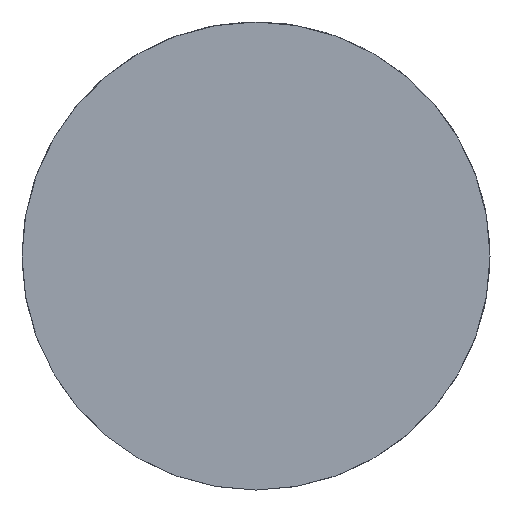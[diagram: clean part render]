
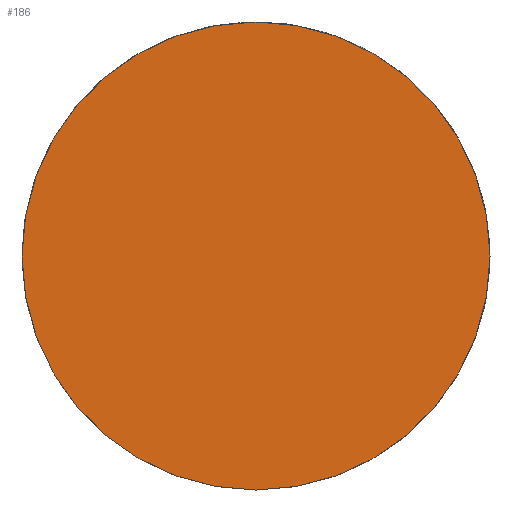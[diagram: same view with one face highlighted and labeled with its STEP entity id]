
A CAD part, front view. The second image highlights one B-rep face of the part: STEP entity #186.
In plain terms, the highlighted planar face has unit normal (0, -1, 0).
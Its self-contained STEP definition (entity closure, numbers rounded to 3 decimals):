
#4 = EDGE_LOOP ( 'NONE', ( #227 ) ) ;
#93 = DIRECTION ( 'NONE',  ( 0., 0., -1. ) ) ;
#104 = AXIS2_PLACEMENT_3D ( 'NONE', #720, #558, #93 ) ;
#111 = PLANE ( 'NONE',  #606 ) ;
#186 = ADVANCED_FACE ( 'NONE', ( #1165 ), #111, .T. ) ;
#225 = CARTESIAN_POINT ( 'NONE',  ( 0., 5., 0. ) ) ;
#227 = ORIENTED_EDGE ( 'NONE', *, *, #632, .T. ) ;
#495 = DIRECTION ( 'NONE',  ( 0., -1., 0. ) ) ;
#558 = DIRECTION ( 'NONE',  ( 0., -1., 0. ) ) ;
#606 = AXIS2_PLACEMENT_3D ( 'NONE', #225, #495, #863 ) ;
#632 = EDGE_CURVE ( 'NONE', #946, #946, #649, .T. ) ;
#649 = CIRCLE ( 'NONE', #104, 155. ) ;
#720 = CARTESIAN_POINT ( 'NONE',  ( 0., 5., 0. ) ) ;
#863 = DIRECTION ( 'NONE',  ( 0., 0., -1. ) ) ;
#946 = VERTEX_POINT ( 'NONE', #1053 ) ;
#1053 = CARTESIAN_POINT ( 'NONE',  ( 0., 5., -155. ) ) ;
#1165 = FACE_OUTER_BOUND ( 'NONE', #4, .T. ) ;
